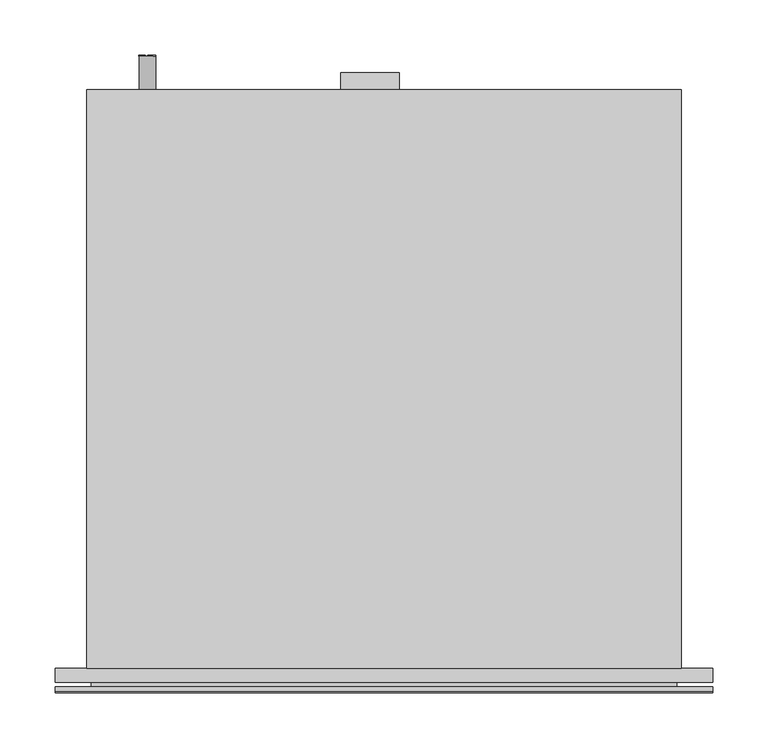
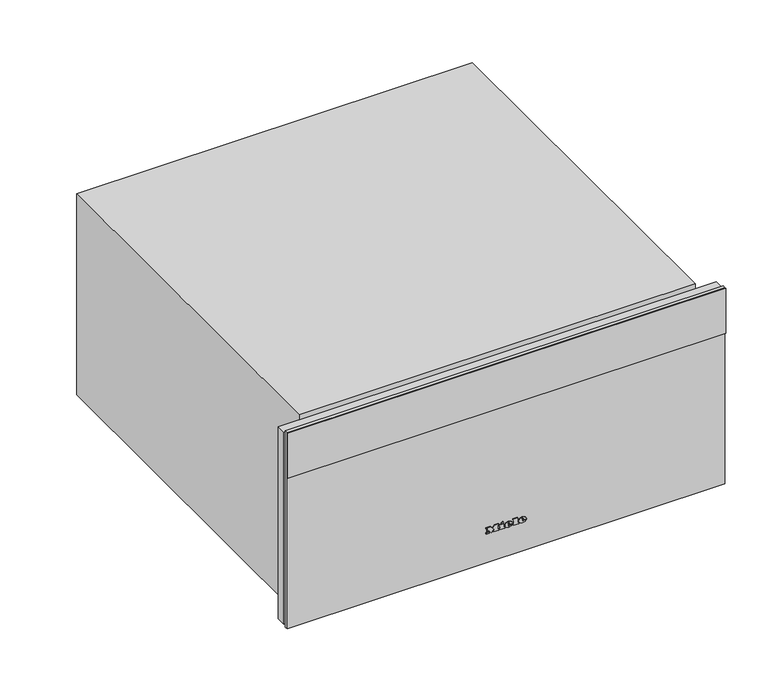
"""IFC4 building model written with IfcOpenShell, lengths in millimetres: proxy geometry, 11101810_CH_ESW7020_EDST-CLST : 30702040_CH_11101810_ESW7020_EDST-CLST."""

import ifcopenshell
import ifcopenshell.guid

model = None  # the IFC model being written
_history = None  # IfcOwnerHistory: only IFC2X3 demands one
_inside = {}  # id of a spatial element -> (the spatial element, [elements in it])
_under = {}  # id of a project, library or spatial element -> (it, [spatial elements below it])
_declared = {}  # id of a project -> (the project, [libraries it declares])
_typed = {}  # id of a type object -> (the type object, [elements of that type])
_made_of = {}  # id of a material, layer set ... -> (it, [elements and type objects made of it])


def new_model(schema):
    """Start an empty IFC model of exactly this schema.

    Asked for "IFC4X3", IfcOpenShell would pick the latest addendum, in which some entities
    have other attributes; the version numbers below select the first issue.
    IFC2X3 requires an IfcOwnerHistory on every rooted entity: one is made here for all.
    """
    global model, _history
    if schema == "IFC4X3":
        model = ifcopenshell.file(schema_version=(4, 3, 0, 0))
    else:
        model = ifcopenshell.file(schema=schema)
    _inside.clear()
    _under.clear()
    _declared.clear()
    _typed.clear()
    _made_of.clear()
    _history = None
    if model.schema == "IFC2X3":
        org = make("IfcOrganization", Name="unknown")
        user = make(
            "IfcPersonAndOrganization",
            ThePerson=make("IfcPerson", FamilyName="unknown"),
            TheOrganization=org,
        )
        app = make(
            "IfcApplication",
            ApplicationDeveloper=org,
            Version="unknown",
            ApplicationFullName="unknown",
            ApplicationIdentifier="unknown",
        )
        _history = make(
            "IfcOwnerHistory",
            OwningUser=user,
            OwningApplication=app,
            ChangeAction="ADDED",
            CreationDate=0,
        )
    return model


def make(cls, **values):
    """One entity of the class cls with the attributes given. An attribute that is None is left unset."""
    return model.create_entity(
        cls, **{name: value for name, value in values.items() if value is not None}
    )


def rooted(cls, **values):
    """An entity with a GlobalId (a new one), such as an element, a storey or a relation."""
    return make(cls, GlobalId=ifcopenshell.guid.new(), OwnerHistory=_history, **values)


def si_unit(unit_type, name, prefix=None):
    """IfcSIUnit, for example si_unit("LENGTHUNIT", "METRE", prefix="MILLI")."""
    return make("IfcSIUnit", UnitType=unit_type, Prefix=prefix, Name=name)


def assignment(units):
    """IfcUnitAssignment: the units of a project."""
    return None if units is None else make("IfcUnitAssignment", Units=units)


def point(xyz):
    """IfcCartesianPoint."""
    return None if xyz is None else make("IfcCartesianPoint", Coordinates=xyz)


def direction(xyz):
    """IfcDirection."""
    return None if xyz is None else make("IfcDirection", DirectionRatios=xyz)


def frame(location, z_axis=None, x_axis=None):
    """IfcAxis2Placement3D, a coordinate frame: its origin and axes. An axis left out is left unset."""
    return make(
        "IfcAxis2Placement3D",
        Location=point(location),
        Axis=direction(z_axis),
        RefDirection=direction(x_axis),
    )


def frame_2d(location, x_axis=None):
    """IfcAxis2Placement2D, a coordinate frame in the plane: its origin and x axis."""
    return make(
        "IfcAxis2Placement2D", Location=point(location), RefDirection=direction(x_axis)
    )


def origin():
    """The frame at (0, 0, 0) with its axes left unset."""
    return frame((0.0, 0.0, 0.0))


def place(relative_to, where):
    """IfcLocalPlacement: puts the frame where relative to a parent placement (None: the world)."""
    return make(
        "IfcLocalPlacement", PlacementRelTo=relative_to, RelativePlacement=where
    )


def context(
    kind, dimensions, precision=None, world=None, true_north=None, identifier=None
):
    """IfcGeometricRepresentationContext, for example the 3D "Model" context."""
    return make(
        "IfcGeometricRepresentationContext",
        ContextIdentifier=identifier,
        ContextType=kind,
        CoordinateSpaceDimension=dimensions,
        Precision=precision,
        WorldCoordinateSystem=world,
        TrueNorth=true_north,
    )


def project(units=None, contexts=None):
    """IfcProject with its units and contexts."""
    return rooted(
        "IfcProject",
        Name="project",
        RepresentationContexts=contexts,
        UnitsInContext=assignment(units),
    )


def spatial(cls, under=None, at=None, **own):
    """A site, building, storey or space (cls), placed at a placement, below another one or the project."""
    s = rooted(cls, ObjectPlacement=at, **own)
    if under is not None:
        _under.setdefault(under.id(), (under, []))[1].append(s)
    return s


def polyline(points):
    """IfcPolyline through the points."""
    return make("IfcPolyline", Points=[point(p) for p in points])


def circle_curve(where, radius):
    """IfcCircle in the frame where."""
    return make("IfcCircle", Position=where, Radius=radius)


def ellipse_curve(where, semi_axis1, semi_axis2):
    """IfcEllipse in the frame where."""
    return make(
        "IfcEllipse", Position=where, SemiAxis1=semi_axis1, SemiAxis2=semi_axis2
    )


def trimmed(basis, trim1, trim2, sense, master):
    """IfcTrimmedCurve: the piece of a basis curve between two trims."""
    return make(
        "IfcTrimmedCurve",
        BasisCurve=basis,
        Trim1=trim1,
        Trim2=trim2,
        SenseAgreement=sense,
        MasterRepresentation=master,
    )


def segment(curve, same_sense, transition):
    """IfcCompositeCurveSegment."""
    return make(
        "IfcCompositeCurveSegment",
        Transition=transition,
        SameSense=same_sense,
        ParentCurve=curve,
    )


def composite_curve(segments, self_intersect=None):
    """IfcCompositeCurve: segments joined end to end."""
    return make("IfcCompositeCurve", Segments=segments, SelfIntersect=self_intersect)


def outline(outer, holes=None, kind="AREA"):
    """IfcArbitraryClosedProfileDef: a profile drawn as a closed curve; with holes, ...WithVoids."""
    if holes is None:
        return make("IfcArbitraryClosedProfileDef", ProfileType=kind, OuterCurve=outer)
    return make(
        "IfcArbitraryProfileDefWithVoids",
        ProfileType=kind,
        OuterCurve=outer,
        InnerCurves=holes,
    )


def extrude(swept, where, along, depth):
    """IfcExtrudedAreaSolid: the profile swept, set in the frame where, extruded along a direction by depth."""
    return make(
        "IfcExtrudedAreaSolid",
        SweptArea=swept,
        Position=where,
        ExtrudedDirection=direction(along),
        Depth=depth,
    )


def faces_of(points, faces, orient=None, outer=None):
    """IfcFace entities. A face is a list of loops; a loop is a list of indices into points, from 0.

    orient and outer hold one flag for each loop. By default every Orientation is true, the
    first loop of a face is its IfcFaceOuterBound and the others are IfcFaceBound.
    """
    made = []
    for i, loops in enumerate(faces):
        bounds = []
        for j, loop in enumerate(loops):
            is_outer = j == 0 if outer is None else outer[i][j]
            bounds.append(
                make(
                    "IfcFaceOuterBound" if is_outer else "IfcFaceBound",
                    Bound=make("IfcPolyLoop", Polygon=[points[k] for k in loop]),
                    Orientation=True if orient is None else orient[i][j],
                )
            )
        made.append(make("IfcFace", Bounds=bounds))
    return made


def faceted_brep(points, faces, orient=None, outer=None, voids=None):
    """IfcFacetedBrep: a solid bounded by flat faces; with voids (closed shells), ...WithVoids."""
    shared = [point(p) for p in points]
    hull = make("IfcClosedShell", CfsFaces=faces_of(shared, faces, orient, outer))
    if voids is None:
        return make("IfcFacetedBrep", Outer=hull)
    return make(
        "IfcFacetedBrepWithVoids",
        Outer=hull,
        Voids=[
            make(cls, CfsFaces=faces_of(shared, fs, o, b)) for cls, fs, o, b in voids
        ],
    )


def shape(context_of_items, identifier, shape_type, items):
    """IfcShapeRepresentation: the items that make up one representation, for example the "Body"."""
    return make(
        "IfcShapeRepresentation",
        ContextOfItems=context_of_items,
        RepresentationIdentifier=identifier,
        RepresentationType=shape_type,
        Items=items,
    )


def source(mapping_origin, context_of_items, identifier, shape_type, items):
    """IfcRepresentationMap: a shape defined once, which mapped items show again and again."""
    return make(
        "IfcRepresentationMap",
        MappingOrigin=mapping_origin,
        MappedRepresentation=shape(context_of_items, identifier, shape_type, items),
    )


def transform(
    local_origin,
    x_axis=None,
    y_axis=None,
    z_axis=None,
    scale=None,
    scale2=None,
    scale3=None,
    uniform=True,
):
    """IfcCartesianTransformationOperator3D, or its non-uniform kind. x_axis, y_axis, z_axis: its Axis1, 2, 3."""
    if uniform:
        return make(
            "IfcCartesianTransformationOperator3D",
            Axis1=direction(x_axis),
            Axis2=direction(y_axis),
            LocalOrigin=point(local_origin),
            Scale=scale,
            Axis3=direction(z_axis),
        )
    return make(
        "IfcCartesianTransformationOperator3DnonUniform",
        Axis1=direction(x_axis),
        Axis2=direction(y_axis),
        LocalOrigin=point(local_origin),
        Scale=scale,
        Axis3=direction(z_axis),
        Scale2=scale2,
        Scale3=scale3,
    )


def mapped(mapping_source, mapping_target):
    """IfcMappedItem: shows the shape of a source again, moved by a transform."""
    return make(
        "IfcMappedItem", MappingSource=mapping_source, MappingTarget=mapping_target
    )


def made_of(thing, what):
    """Note that an element or type object is made of a material, layer set ...; save() writes the relation."""
    if what is not None:
        _made_of.setdefault(what.id(), (what, []))[1].append(thing)
    return thing


def element(
    cls,
    number,
    at=None,
    inside=None,
    cuts=None,
    type_object=None,
    material=None,
    context=None,
    identifier="Body",
    shape_type=None,
    held_by="IfcProductDefinitionShape",
    body=None,
    shapes=None,
    **own,
):
    """One element of the class cls, such as IfcWall. Its Tag is "e" and its number.

    at: its placement. inside: the storey or other place that contains it. cuts: it is an
    opening in that element (IfcRelVoidsElement). A single representation is given by context,
    identifier, shape_type and body (its items); several are given by shapes. held_by: the class
    of the entity that holds the representations. save() writes the other relations.
    """
    e = rooted(cls, Tag="e%d" % number, ObjectPlacement=at, **own)
    if body is not None:
        shapes = [shape(context, identifier, shape_type, body)]
    if shapes is not None:
        e.Representation = make(held_by, Representations=shapes)
    if inside is not None:
        _inside.setdefault(inside.id(), (inside, []))[1].append(e)
    if cuts is not None:
        rooted(
            "IfcRelVoidsElement", RelatingBuildingElement=cuts, RelatedOpeningElement=e
        )
    if type_object is not None:
        _typed.setdefault(type_object.id(), (type_object, []))[1].append(e)
    return made_of(e, material)


def aggregate(whole, parts):
    """IfcRelAggregates: a whole, such as a stair, and the parts it consists of."""
    return rooted("IfcRelAggregates", RelatingObject=whole, RelatedObjects=parts)


def save(model, path):
    """Write the relations noted so far, then the file.

    IfcRelAggregates (storeys below a building ...), IfcRelContainedInSpatialStructure (elements
    in a storey), IfcRelDefinesByType, IfcRelAssociatesMaterial and IfcRelDeclares: one each for
    every whole, place, type object, material and project.
    """
    for whole, parts in _under.values():
        aggregate(whole, parts)
    for where, things in _inside.values():
        rooted(
            "IfcRelContainedInSpatialStructure",
            RelatedElements=things,
            RelatingStructure=where,
        )
    for kind, things in _typed.values():
        rooted("IfcRelDefinesByType", RelatedObjects=things, RelatingType=kind)
    for what, things in _made_of.values():
        rooted("IfcRelAssociatesMaterial", RelatedObjects=things, RelatingMaterial=what)
    for by, libraries in _declared.values():
        rooted("IfcRelDeclares", RelatingContext=by, RelatedDefinitions=libraries)
    model.write(path)


def plane_surface(at):
    """IfcPlane: the flat surface through the origin of the frame at, square to its z axis."""
    return make("IfcPlane", Position=at)


def cylinder_surface(at, radius):
    """IfcCylindricalSurface: all points at the distance radius from the z axis of the frame at."""
    return make("IfcCylindricalSurface", Position=at, Radius=radius)


def revolved_surface(curve, axis_point, axis_direction):
    """IfcSurfaceOfRevolution: the curve turned about the line through axis_point along axis_direction."""
    return make(
        "IfcSurfaceOfRevolution",
        SweptCurve=make("IfcArbitraryOpenProfileDef", ProfileType="CURVE", Curve=curve),
        AxisPosition=make("IfcAxis1Placement", Location=point(axis_point), Axis=direction(axis_direction)),
    )


def extruded_surface(curve, direction_of_extrusion, depth):
    """IfcSurfaceOfLinearExtrusion: the curve pushed along a direction by depth."""
    return make(
        "IfcSurfaceOfLinearExtrusion",
        SweptCurve=make("IfcArbitraryOpenProfileDef", ProfileType="CURVE", Curve=curve),
        ExtrudedDirection=direction(direction_of_extrusion),
        Depth=depth,
    )


def advanced_brep(points, edges, surfaces, faces):
    """IfcAdvancedBrep: a solid bounded by faces that lie on surfaces and meet in shared edges.

    An edge is (start, end): straight between two places in points (the first is 0);
    or (start, end, curve); or (start, end, curve, False) where it runs against its curve.
    A face is (place in surfaces, loops), or (place, loops, False) where it looks against
    its surface's normal. A loop lists edges by number (the first is 1), with a minus sign
    where the edge is run from its end to its start. The first loop is the outer one.
    """
    corners = [point(p) for p in points]
    vertices = [make("IfcVertexPoint", VertexGeometry=c) for c in corners]
    made = []
    for start, end, *more in edges:
        made.append(
            make(
                "IfcEdgeCurve",
                EdgeStart=vertices[start],
                EdgeEnd=vertices[end],
                EdgeGeometry=more[0] if more else make("IfcPolyline", Points=[corners[start], corners[end]]),
                SameSense=more[1] if len(more) > 1 else True,
            )
        )
    hull = []
    for where, loops, *sense in faces:
        bounds = []
        for j, loop in enumerate(loops):
            ring = [make("IfcOrientedEdge", EdgeElement=made[abs(k) - 1], Orientation=k > 0) for k in loop]
            bounds.append(
                make(
                    "IfcFaceOuterBound" if j == 0 else "IfcFaceBound",
                    Bound=make("IfcEdgeLoop", EdgeList=ring),
                    Orientation=True,
                )
            )
        hull.append(make("IfcAdvancedFace", Bounds=bounds, FaceSurface=surfaces[where], SameSense=sense[0] if sense else True))
    return make("IfcAdvancedBrep", Outer=make("IfcClosedShell", CfsFaces=hull))


def specialty_equipment_abaaba5e(model_context):
    return source(origin(), model_context, "Body", "SolidModel", [
        advanced_brep(
        [(21.28, -22.0, 48.133), (21.28, -22.0, 49.042), (27.301, -22.0, 49.042), (16.825, -22.0, 49.042), (19.3, -22.0, 46.0), (27.148, -22.0, 48.133), (24.43, -22.0, 48.133), (22.288, -22.0, 47.125), (21.28, -22.0, 50.194), (21.28, -22.0, 51.175), (22.819, -22.0, 51.175), (22.819, -22.0, 50.194), (21.28, -21.0, 48.133), (22.288, -21.0, 47.125), (24.43, -21.0, 48.133), (27.148, -21.0, 48.133), (19.3, -21.0, 46.0), (16.825, -21.0, 49.042), (27.301, -21.0, 49.042), (21.28, -21.0, 49.042), (21.28, -21.0, 50.194), (22.819, -21.0, 50.194), (22.819, -21.0, 51.175), (21.28, -21.0, 51.175)],
        [
            (0, 1),
            (1, 2),
            (2, 3, ellipse_curve(frame((22.063, -22.0, 49.042), z_axis=(0.0, -1.0, 0.0), x_axis=(-1.0, 0.0, 0.0)), 5.238, 4.329)),
            (3, 4, circle_curve(frame((20.3080491, -22.0, 49.348), z_axis=(0.0, -1.0, 0.0), x_axis=(0.0, 0.0, -1.0)), 3.4964649)),
            (4, 5, circle_curve(frame((21.9581428, -22.0, 51.724), z_axis=(0.0, -1.0, 0.0), x_axis=(0.0, 0.0, -1.0)), 6.3110933)),
            (5, 6),
            (6, 7, circle_curve(frame((22.7279412, -22.0, 48.97), z_axis=(0.0, 1.0, 0.0), x_axis=(0.0, 0.0, -1.0)), 1.896727)),
            (7, 0, circle_curve(frame((22.288, -22.0, 48.133), z_axis=(0.0, 1.0, 0.0), x_axis=(0.0, 0.0, -1.0)), 1.008)),
            (8, 9),
            (9, 10, circle_curve(frame((22.0495, -22.0, 51.175), z_axis=(0.0, 1.0, 0.0), x_axis=(0.0, 0.0, -1.0)), 0.7695)),
            (10, 11),
            (11, 8),
            (12, 13, circle_curve(frame((22.288, -21.0, 48.133), z_axis=(0.0, -1.0, 0.0), x_axis=(0.0, 0.0, -1.0)), 1.008)),
            (13, 14, circle_curve(frame((22.7279412, -21.0, 48.97), z_axis=(0.0, -1.0, 0.0), x_axis=(0.0, 0.0, -1.0)), 1.896727)),
            (14, 15),
            (15, 16, circle_curve(frame((21.9581428, -21.0, 51.724), z_axis=(0.0, 1.0, 0.0), x_axis=(0.0, 0.0, -1.0)), 6.3110933)),
            (16, 17, circle_curve(frame((20.3080491, -21.0, 49.348), z_axis=(0.0, 1.0, 0.0), x_axis=(0.0, 0.0, -1.0)), 3.4964649)),
            (17, 18, ellipse_curve(frame((22.063, -21.0, 49.042), z_axis=(0.0, 1.0, 0.0), x_axis=(-1.0, 0.0, 0.0)), 5.238, 4.329)),
            (18, 19),
            (19, 12),
            (20, 21),
            (21, 22),
            (22, 23, circle_curve(frame((22.0495, -21.0, 51.175), z_axis=(0.0, -1.0, 0.0), x_axis=(0.0, 0.0, -1.0)), 0.7695)),
            (23, 20),
            (0, 12),
            (19, 1),
            (18, 2),
            (5, 15),
            (14, 6),
            (17, 3),
            (13, 7),
            (16, 4),
            (8, 20),
            (23, 9),
            (22, 10),
            (21, 11),
        ],
        [
            plane_surface(frame((21.28, -22.0, 49.042), z_axis=(0.0, -1.0, 0.0), x_axis=(0.0, 0.0, 1.0))),
            plane_surface(frame((21.28, -21.0, 49.042), z_axis=(0.0, 1.0, 0.0), x_axis=(0.0, 0.0, -1.0))),
            plane_surface(frame((21.28, -22.0, 48.133), z_axis=(1.0, 0.0, 0.0), x_axis=(0.0, 1.0, 0.0))),
            plane_surface(frame((21.28, -22.0, 49.042), z_axis=(0.0, 0.0, -1.0), x_axis=(0.0, 1.0, 0.0))),
            plane_surface(frame((27.148, -22.0, 48.133), z_axis=(0.0, 0.0, 1.0), x_axis=(0.0, 1.0, 0.0))),
            extruded_surface(trimmed(ellipse_curve(frame((22.063, -20.0, 49.042), z_axis=(0.0, -1.0, 0.0), x_axis=(-1.0, 0.0, 0.0)), 5.238, 4.329), [point((27.301, -20.0, 49.042))], [point((16.825, -20.0, 49.042))], True, "CARTESIAN"), (0.0, -1.0, 0.0), 1.0),
            revolved_surface(polyline([(22.7279412, -21.0, 47.073273), (22.7279412, -22.0, 47.073273)]), (22.7279412, -21.0, 48.97), (0.0, 1.0, 0.0)),
            revolved_surface(polyline([(22.288, -21.0, 47.125), (22.288, -22.0, 47.125)]), (22.288, -21.0, 48.133), (0.0, 1.0, 0.0)),
            cylinder_surface(frame((20.3080491, -21.0, 49.348), z_axis=(0.0, -1.0, 0.0), x_axis=(0.0, 0.0, -1.0)), 3.4964649),
            cylinder_surface(frame((21.9581428, -21.0, 51.724), z_axis=(0.0, -1.0, 0.0), x_axis=(0.0, 0.0, -1.0)), 6.3110933),
            plane_surface(frame((21.28, -22.0, 50.194), z_axis=(1.0, 0.0, 0.0), x_axis=(0.0, 1.0, 0.0))),
            revolved_surface(polyline([(22.0495, -21.0, 50.405499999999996), (22.0495, -22.0, 50.405499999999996)]), (22.0495, -21.0, 51.175), (0.0, 1.0, 0.0)),
            plane_surface(frame((22.819, -22.0, 51.175), z_axis=(-1.0, 0.0, 0.0), x_axis=(0.0, 1.0, 0.0))),
            plane_surface(frame((22.819, -22.0, 50.194), z_axis=(0.0, 0.0, 1.0), x_axis=(0.0, 1.0, 0.0))),
        ],
        [
            (0, [[1, 2, 3, 4, 5, 6, 7, 8], [9, 10, 11, 12]]),
            (1, [[13, 14, 15, 16, 17, 18, 19, 20], [21, 22, 23, 24]]),
            (2, [[-1, 25, -20, 26]]),
            (3, [[-2, -26, -19, 27]]),
            (4, [[-6, 28, -15, 29]]),
            (5, [[-3, -27, -18, 30]]),
            (6, [[-7, -29, -14, 31]]),
            (7, [[-8, -31, -13, -25]]),
            (8, [[-4, -30, -17, 32]]),
            (9, [[-5, -32, -16, -28]]),
            (10, [[-9, 33, -24, 34]]),
            (11, [[-10, -34, -23, 35]]),
            (12, [[-11, -35, -22, 36]]),
            (13, [[-12, -36, -21, -33]]),
        ],
    ),
        advanced_brep(
        [(2.497, -22.0, 48.133), (2.497, -22.0, 49.042), (8.518, -22.0, 49.042), (-1.958, -22.0, 49.042), (0.517, -22.0, 46.0), (8.365, -22.0, 48.133), (5.647, -22.0, 48.133), (3.505, -22.0, 47.125), (2.497, -22.0, 50.194), (2.497, -22.0, 51.175), (4.036, -22.0, 51.175), (4.036, -22.0, 50.194), (2.497, -21.0, 48.133), (3.505, -21.0, 47.125), (5.647, -21.0, 48.133), (8.365, -21.0, 48.133), (0.517, -21.0, 46.0), (-1.958, -21.0, 49.042), (8.518, -21.0, 49.042), (2.497, -21.0, 49.042), (2.497, -21.0, 50.194), (4.036, -21.0, 50.194), (4.036, -21.0, 51.175), (2.497, -21.0, 51.175)],
        [
            (0, 1),
            (1, 2),
            (2, 3, ellipse_curve(frame((3.28, -22.0, 49.042), z_axis=(0.0, -1.0, 0.0), x_axis=(-1.0, 0.0, 0.0)), 5.238, 4.329)),
            (3, 4, circle_curve(frame((1.5250491, -22.0, 49.348), z_axis=(0.0, -1.0, 0.0), x_axis=(0.0, 0.0, -1.0)), 3.4964649)),
            (4, 5, circle_curve(frame((3.1751428, -22.0, 51.724), z_axis=(0.0, -1.0, 0.0), x_axis=(0.0, 0.0, -1.0)), 6.3110933)),
            (5, 6),
            (6, 7, circle_curve(frame((3.9449412, -22.0, 48.97), z_axis=(0.0, 1.0, 0.0), x_axis=(0.0, 0.0, -1.0)), 1.896727)),
            (7, 0, circle_curve(frame((3.505, -22.0, 48.133), z_axis=(0.0, 1.0, 0.0), x_axis=(0.0, 0.0, -1.0)), 1.008)),
            (8, 9),
            (9, 10, circle_curve(frame((3.2665, -22.0, 51.175), z_axis=(0.0, 1.0, 0.0), x_axis=(0.0, 0.0, -1.0)), 0.7695)),
            (10, 11),
            (11, 8),
            (12, 13, circle_curve(frame((3.505, -21.0, 48.133), z_axis=(0.0, -1.0, 0.0), x_axis=(0.0, 0.0, -1.0)), 1.008)),
            (13, 14, circle_curve(frame((3.9449412, -21.0, 48.97), z_axis=(0.0, -1.0, 0.0), x_axis=(0.0, 0.0, -1.0)), 1.896727)),
            (14, 15),
            (15, 16, circle_curve(frame((3.1751428, -21.0, 51.724), z_axis=(0.0, 1.0, 0.0), x_axis=(0.0, 0.0, -1.0)), 6.3110933)),
            (16, 17, circle_curve(frame((1.5250491, -21.0, 49.348), z_axis=(0.0, 1.0, 0.0), x_axis=(0.0, 0.0, -1.0)), 3.4964649)),
            (17, 18, ellipse_curve(frame((3.28, -21.0, 49.042), z_axis=(0.0, 1.0, 0.0), x_axis=(-1.0, 0.0, 0.0)), 5.238, 4.329)),
            (18, 19),
            (19, 12),
            (20, 21),
            (21, 22),
            (22, 23, circle_curve(frame((3.2665, -21.0, 51.175), z_axis=(0.0, -1.0, 0.0), x_axis=(0.0, 0.0, -1.0)), 0.7695)),
            (23, 20),
            (0, 12),
            (19, 1),
            (18, 2),
            (5, 15),
            (14, 6),
            (17, 3),
            (13, 7),
            (16, 4),
            (8, 20),
            (23, 9),
            (22, 10),
            (21, 11),
        ],
        [
            plane_surface(frame((2.497, -22.0, 49.042), z_axis=(0.0, -1.0, 0.0), x_axis=(0.0, 0.0, 1.0))),
            plane_surface(frame((2.497, -21.0, 49.042), z_axis=(0.0, 1.0, 0.0), x_axis=(0.0, 0.0, -1.0))),
            plane_surface(frame((2.497, -22.0, 48.133), z_axis=(1.0, 0.0, 0.0), x_axis=(0.0, 1.0, 0.0))),
            plane_surface(frame((2.497, -22.0, 49.042), z_axis=(0.0, 0.0, -1.0), x_axis=(0.0, 1.0, 0.0))),
            plane_surface(frame((8.365, -22.0, 48.133), z_axis=(0.0, 0.0, 1.0), x_axis=(0.0, 1.0, 0.0))),
            extruded_surface(trimmed(ellipse_curve(frame((3.28, -20.0, 49.042), z_axis=(0.0, -1.0, 0.0), x_axis=(-1.0, 0.0, 0.0)), 5.238, 4.329), [point((8.518, -20.0, 49.042))], [point((-1.958, -20.0, 49.042))], True, "CARTESIAN"), (0.0, -1.0, 0.0), 1.0),
            revolved_surface(polyline([(3.9449412, -21.0, 47.073273), (3.9449412, -22.0, 47.073273)]), (3.9449412, -21.0, 48.97), (0.0, 1.0, 0.0)),
            revolved_surface(polyline([(3.505, -21.0, 47.125), (3.505, -22.0, 47.125)]), (3.505, -21.0, 48.133), (0.0, 1.0, 0.0)),
            cylinder_surface(frame((1.5250491, -21.0, 49.348), z_axis=(0.0, -1.0, 0.0), x_axis=(0.0, 0.0, -1.0)), 3.4964649),
            cylinder_surface(frame((3.1751428, -21.0, 51.724), z_axis=(0.0, -1.0, 0.0), x_axis=(0.0, 0.0, -1.0)), 6.3110933),
            plane_surface(frame((2.497, -22.0, 50.194), z_axis=(1.0, 0.0, 0.0), x_axis=(0.0, 1.0, 0.0))),
            revolved_surface(polyline([(3.2665, -21.0, 50.405499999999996), (3.2665, -22.0, 50.405499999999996)]), (3.2665, -21.0, 51.175), (0.0, 1.0, 0.0)),
            plane_surface(frame((4.036, -22.0, 51.175), z_axis=(-1.0, 0.0, 0.0), x_axis=(0.0, 1.0, 0.0))),
            plane_surface(frame((4.036, -22.0, 50.194), z_axis=(0.0, 0.0, 1.0), x_axis=(0.0, 1.0, 0.0))),
        ],
        [
            (0, [[1, 2, 3, 4, 5, 6, 7, 8], [9, 10, 11, 12]]),
            (1, [[13, 14, 15, 16, 17, 18, 19, 20], [21, 22, 23, 24]]),
            (2, [[-1, 25, -20, 26]]),
            (3, [[-2, -26, -19, 27]]),
            (4, [[-6, 28, -15, 29]]),
            (5, [[-3, -27, -18, 30]]),
            (6, [[-7, -29, -14, 31]]),
            (7, [[-8, -31, -13, -25]]),
            (8, [[-4, -30, -17, 32]]),
            (9, [[-5, -32, -16, -28]]),
            (10, [[-9, 33, -24, 34]]),
            (11, [[-10, -34, -23, 35]]),
            (12, [[-11, -35, -22, 36]]),
            (13, [[-12, -36, -21, -33]]),
        ],
    ),
        extrude(outline(polyline([(54.469, -7.34), (53.011, -6.656), (54.433, -3.605), (55.891, -4.28), (54.469, -7.34)])), frame((0.0, -22.0, 0.0), z_axis=(0.0, 1.0, 0.0), x_axis=(0.0, 0.0, 1.0)), (0.0, 0.0, 1.0), 1.0),
        extrude(outline(polyline([(52.813, -9.563), (51.202, -9.563), (51.202, -8.492), (47.512, -8.492), (47.512, -9.563), (46.0, -9.563), (46.0, -2.462), (47.512, -2.462), (47.512, -3.506), (52.813, -3.506), (52.813, -9.563)])), frame((0.0, -22.0, 0.0), z_axis=(0.0, 1.0, 0.0), x_axis=(0.0, 0.0, 1.0)), (0.0, 0.0, 1.0), 1.0),
        extrude(outline(polyline([(53.533, 9.022), (53.533, 10.102), (47.512, 10.102), (47.512, 9.022), (46.0, 9.022), (46.0, 16.321), (47.512, 16.321), (47.512, 15.214), (55.0, 15.214), (55.0, 9.022), (53.533, 9.022)])), frame((0.0, -22.0, 0.0), z_axis=(0.0, 1.0, 0.0), x_axis=(0.0, 0.0, 1.0)), (0.0, 0.0, 1.0), 1.0),
        extrude(outline(polyline([(53.533, -27.5), (53.533, -26.411), (47.512, -26.411), (47.512, -27.5), (46.0, -27.5), (46.0, -23.54), (47.512, -23.54), (47.512, -24.62), (51.3341247, -24.62), (46.0, -20.597), (51.4402223, -16.556), (47.512, -16.556), (47.512, -17.663), (46.0, -17.663), (46.0, -10.481), (47.512, -10.481), (47.512, -11.624), (53.533, -11.624), (53.533, -10.481), (55.0, -10.481), (55.0, -15.962), (51.625, -18.59), (55.0, -21.227), (55.0, -27.5), (53.533, -27.5)])), frame((0.0, -22.0, 0.0), z_axis=(0.0, 1.0, 0.0), x_axis=(0.0, 0.0, 1.0)), (0.0, 0.0, 1.0), 1.0),
        extrude(outline(polyline([(-297.5, -17.0), (297.5, -17.0), (297.5, -21.0), (-297.5, -21.0), (-297.5, -17.0)])), frame((0.0, 0.0, 4.0), z_axis=(0.0, 0.0, 1.0), x_axis=(1.0, 0.0, 0.0)), (0.0, 0.0, 1.0), 282.0),
        extrude(outline(polyline([(-297.5, -21.0), (297.5, -21.0), (297.5, -22.3), (-297.5, -22.3), (-297.5, -21.0)])), frame((0.0, 0.0, 221.0), z_axis=(0.0, 0.0, 1.0), x_axis=(1.0, 0.0, 0.0)), (0.0, 0.0, 1.0), 65.0),
        extrude(outline(polyline([(-13.0, 10.0), (-13.0, 274.0), (19.0, 274.0), (19.0, 233.0), (4.0, 233.0), (4.0, 10.0), (-13.0, 10.0)])), frame((-261.0, 0.0, 0.0), z_axis=(1.0, 0.0, 0.0), x_axis=(0.0, 1.0, 0.0)), (0.0, 0.0, 1.0), 522.0),
        extrude(outline(polyline([(-265.0, -13.0), (265.0, -13.0), (265.0, -17.0), (-265.0, -17.0), (-265.0, -13.0)])), frame((0.0, 0.0, 6.0), z_axis=(0.0, 0.0, 1.0), x_axis=(1.0, 0.0, 0.0)), (0.0, 0.0, 1.0), 273.0),
        extrude(outline(polyline([(24.045335, -206.6203116), (24.045335, -213.8439827), (22.7898265, -213.8439827), (22.7898265, -207.876825), (19.8076572, -207.876825), (19.8076572, -213.5281281), (18.5519876, -213.5281281), (18.5519876, -207.876825), (15.2564531, -207.876825), (15.2564531, -213.8439827), (14.0, -213.8439827), (14.0, -206.6203116), (24.045335, -206.6203116)])), frame((0.0, 554.0, 0.0), z_axis=(0.0, 1.0, 0.0), x_axis=(0.0, 0.0, 1.0)), (0.0, 0.0, 1.0), 1.0),
        extrude(outline(polyline([(24.0461611, -217.1431874), (15.255243, -217.1431874), (15.255243, -222.1617362), (13.9997538, -222.1617362), (13.9997538, -217.1431874), (13.9997538, -215.8823011), (24.0461611, -215.8823011), (24.0461611, -217.1431874)])), frame((0.0, 554.0, 0.0), z_axis=(0.0, 1.0, 0.0), x_axis=(0.0, 0.0, 1.0)), (0.0, 0.0, 1.0), 1.0),
        extrude(outline(composite_curve([segment(trimmed(circle_curve(frame_2d((19.0, -214.0)), 7.5), [point((19.0, -206.5))], [point((19.0, -221.5))], False, "CARTESIAN"), True, "CONTINUOUS"), segment(trimmed(circle_curve(frame_2d((19.0, -214.0)), 7.5), [point((19.0, -221.5))], [point((19.0, -206.5))], False, "CARTESIAN"), True, "CONTINUOUS")], self_intersect=False)), frame((0.0, 524.0, 0.0), z_axis=(0.0, 1.0, 0.0), x_axis=(0.0, 0.0, 1.0)), (0.0, 0.0, 1.0), 30.0),
        faceted_brep([(269.0, 524.0, 289.0), (269.0, 524.0, 0.0), (-269.0, 524.0, 0.0), (-269.0, 524.0, 289.0), (269.0, 0.0, 289.0), (269.0, 0.0, 281.5), (269.0, 0.0, 5.5), (269.0, 0.0, 0.0), (-269.0, 0.0, 0.0), (-269.0, 0.0, 5.5), (-269.0, 0.0, 281.5), (-269.0, 0.0, 289.0), (-297.5, 0.0, 281.5), (-297.5, -13.0, 281.5), (297.5, -13.0, 281.5), (297.5, 0.0, 281.5), (-267.0, 0.0, 5.5), (-267.0, -13.0, 5.5), (-297.5, -13.0, 5.5), (-297.5, 0.0, 5.5), (267.0, 0.0, 5.5), (297.5, 0.0, 5.5), (297.5, -13.0, 5.5), (267.0, -13.0, 5.5), (-267.0, -13.0, 279.0), (267.0, -13.0, 279.0), (267.0, 522.0, 279.0), (-267.0, 522.0, 279.0), (-267.0, 522.0, 6.0), (267.0, 522.0, 6.0), (-267.0, 0.0, 6.0), (267.0, 0.0, 6.0)], [[[0, 1, 2, 3]], [[1, 0, 4, 5, 6, 7]], [[3, 2, 8, 9, 10, 11]], [[5, 10, 12, 13, 14, 15]], [[10, 5, 4, 11]], [[9, 16, 17, 18, 19]], [[20, 6, 21, 22, 23]], [[12, 10, 9, 19]], [[5, 15, 21, 6]], [[14, 13, 18, 17, 24, 25, 23, 22]], [[15, 14, 22, 21]], [[13, 12, 19, 18]], [[26, 27, 28, 29]], [[29, 28, 30, 31]], [[27, 26, 25, 24]], [[30, 16, 9, 8, 7, 6, 20, 31]], [[2, 1, 7, 8]], [[0, 3, 11, 4]], [[17, 16, 30, 28, 27, 24]], [[25, 26, 29, 31, 20, 23]]]),
        extrude(outline(polyline([(-39.0, 539.0), (14.0, 539.0), (14.0, 524.0), (-39.0, 524.0), (-39.0, 539.0)])), frame((0.0, 0.0, 4.0), z_axis=(0.0, 0.0, 1.0), x_axis=(1.0, 0.0, 0.0)), (0.0, 0.0, 1.0), 29.0),
    ])


if __name__ == "__main__":
    model = new_model("IFC4")
    model_context = context("Model", 3, world=origin())
    ifc_project = project(units=[si_unit("LENGTHUNIT", "METRE", prefix="MILLI")], contexts=[model_context])
    site = spatial("IfcSite", under=ifc_project)
    building = spatial("IfcBuilding", under=site)
    placement = place(None, origin())
    specialty_equipment_shape = specialty_equipment_abaaba5e(model_context)
    element("IfcBuildingElementProxy", 1, Name="11101810_CH_ESW7020_EDST-CLST : 30702040_CH_11101810_ESW7020_EDST-CLST", ObjectType="11101810_CH_ESW7020_EDST-CLST : 30702040_CH_11101810_ESW7020_EDST-CLST", at=placement, inside=building, context=model_context, shape_type="MappedRepresentation", body=[
        mapped(specialty_equipment_shape, transform((0.0, 0.0, 0.0), x_axis=(1.0, 0.0, 0.0), y_axis=(0.0, 1.0, 0.0), z_axis=(0.0, 0.0, 1.0))),
    ])
    save(model, "model.ifc")
